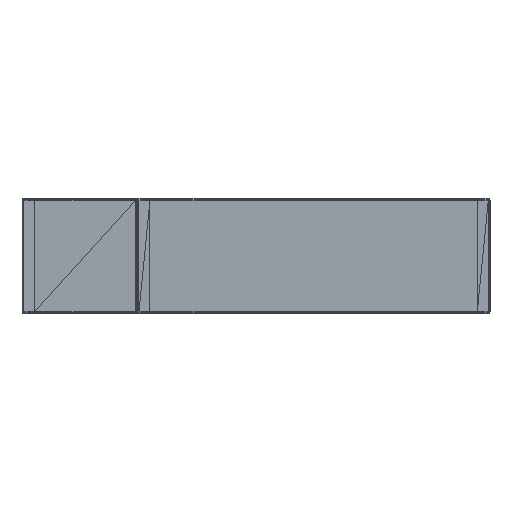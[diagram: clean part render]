
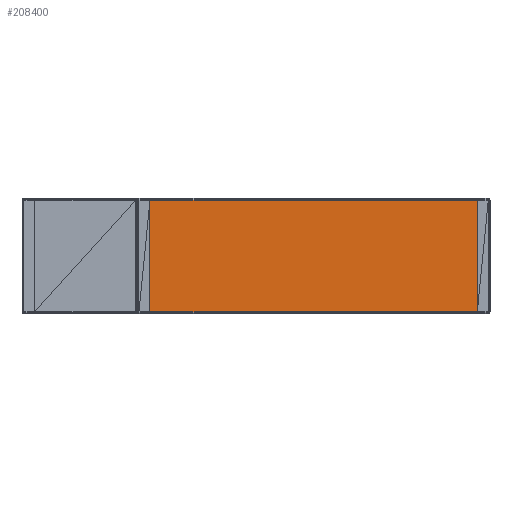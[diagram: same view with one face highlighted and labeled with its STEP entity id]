
A CAD part, front view. The second image highlights one B-rep face of the part: STEP entity #208400.
In plain terms, the highlighted planar face has unit normal (0, -1, 0).
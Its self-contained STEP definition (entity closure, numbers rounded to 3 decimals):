
#137672 = VERTEX_POINT('',#137673);
#137673 = CARTESIAN_POINT('',(4288.686,-29.7,
    -2966.639));
#137679 = EDGE_CURVE('',#137680,#137672,#137682,.T.);
#137680 = VERTEX_POINT('',#137681);
#137681 = CARTESIAN_POINT('',(4288.686,-29.7,
    -3160.639));
#137682 = LINE('',#137683,#137684);
#137683 = CARTESIAN_POINT('',(4288.686,-29.7,
    -3160.639));
#137684 = VECTOR('',#137685,1.);
#137685 = DIRECTION('',(0.,0.,1.));
#153854 = EDGE_CURVE('',#153855,#137680,#153857,.T.);
#153855 = VERTEX_POINT('',#153856);
#153856 = CARTESIAN_POINT('',(3720.686,-29.7,
    -3160.638));
#153857 = LINE('',#153858,#153859);
#153858 = CARTESIAN_POINT('',(3720.686,-29.7,
    -3160.638));
#153859 = VECTOR('',#153860,1.);
#153860 = DIRECTION('',(1.,0.,0.));
#158499 = EDGE_CURVE('',#153855,#158500,#158502,.T.);
#158500 = VERTEX_POINT('',#158501);
#158501 = CARTESIAN_POINT('',(3720.686,-29.7,
    -2966.638));
#158502 = LINE('',#158503,#158504);
#158503 = CARTESIAN_POINT('',(3720.686,-29.7,
    -3160.638));
#158504 = VECTOR('',#158505,1.);
#158505 = DIRECTION('',(0.,0.,1.));
#163309 = EDGE_CURVE('',#137672,#158500,#163310,.T.);
#163310 = LINE('',#163311,#163312);
#163311 = CARTESIAN_POINT('',(4288.686,-29.7,
    -2966.639));
#163312 = VECTOR('',#163313,1.);
#163313 = DIRECTION('',(-1.,0.,0.));
#208400 = ADVANCED_FACE('',(#208401),#208407,.T.);
#208401 = FACE_BOUND('',#208402,.T.);
#208402 = EDGE_LOOP('',(#208403,#208404,#208405,#208406));
#208403 = ORIENTED_EDGE('',*,*,#163309,.T.);
#208404 = ORIENTED_EDGE('',*,*,#158499,.F.);
#208405 = ORIENTED_EDGE('',*,*,#153854,.T.);
#208406 = ORIENTED_EDGE('',*,*,#137679,.T.);
#208407 = PLANE('',#208408);
#208408 = AXIS2_PLACEMENT_3D('',#208409,#208410,#208411);
#208409 = CARTESIAN_POINT('',(4004.686,-29.7,
    -3063.639));
#208410 = DIRECTION('',(0.,-1.,0.));
#208411 = DIRECTION('',(-1.,0.,0.));
